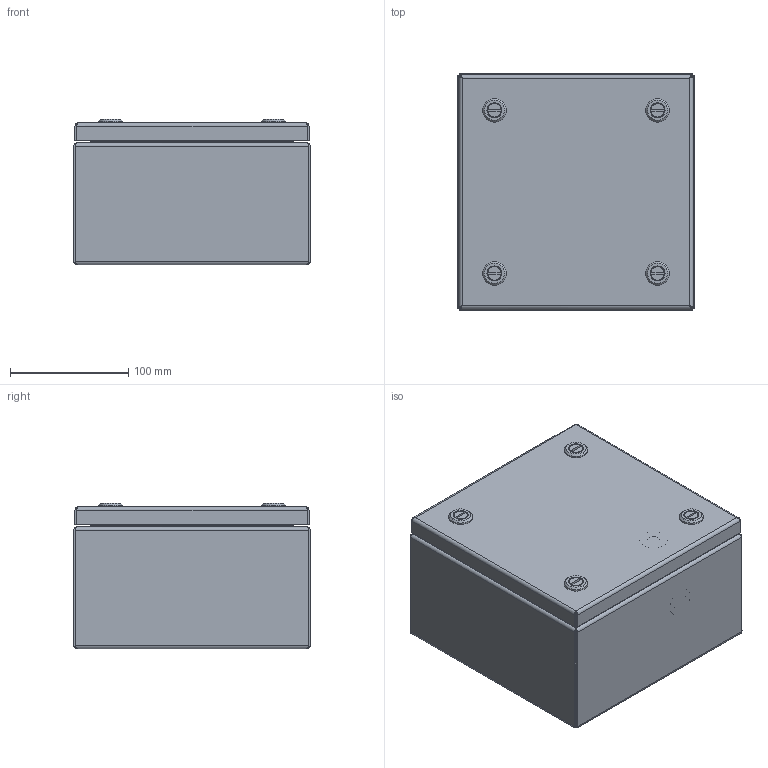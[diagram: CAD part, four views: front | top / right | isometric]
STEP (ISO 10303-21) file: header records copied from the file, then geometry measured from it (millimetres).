
FILE_DESCRIPTION (( 'STEP AP214' ), '1' );
FILE_NAME ('BSS 20.20.12 Êîðîáêà.STEP', '2023-03-14T05:51:13', ( '' ), ( '' ), 'SwSTEP 2.0', 'SolidWorks 2019', '' );
FILE_SCHEMA (( 'AUTOMOTIVE_DESIGN' ));
Length unit declared in the file: millimetre
Products named in the file (1): BSS 20.20.12 Êîðîáêà
Bounding box: 200 x 200 x 123 mm (x, y, z)
Volume: 335434 mm3; surface area: 507391.5 mm2
Topology: 36 solids, 36 shells, 1971 faces, 4908 edges, 3077 vertices
Faces by surface type: plane 1139, cylinder 544, cone 120, bspline 108, torus 44, sphere 16
Entity records: 94499 total; most frequent: CARTESIAN_POINT 26712, ORIENTED_EDGE 9784, DIRECTION 8948, EDGE_CURVE 4892, VECTOR 3084, LINE 3084, VERTEX_POINT 3077, AXIS2_PLACEMENT_3D 2932
